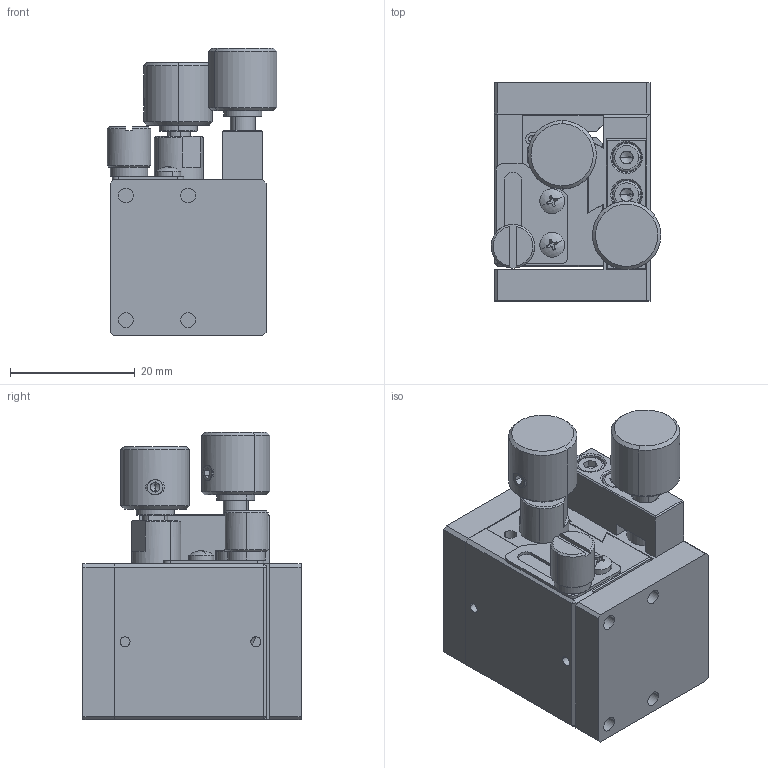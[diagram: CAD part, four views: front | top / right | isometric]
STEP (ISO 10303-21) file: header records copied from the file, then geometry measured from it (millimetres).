
FILE_DESCRIPTION (( 'STEP AP203' ), '1' );
FILE_NAME ('BWEE25.STEP', '2024-02-26T12:22:28', ( 'China' ), ( 'Microsoft' ), 'SwSTEP 2.0', 'SolidWorks 2024', '' );
FILE_SCHEMA (( 'CONFIG_CONTROL_DESIGN' ));
Products named in the file (1): BWEE25
Bounding box: 27.24 x 35 x 46.12 mm (x, y, z)
Volume: 23299.8 mm3; surface area: 18286.9 mm2
Topology: 22 solids, 22 shells, 742 faces, 1888 edges, 1193 vertices
Faces by surface type: plane 347, cylinder 237, cone 106, bspline 40, torus 8, sphere 4
Entity records: 111841 total; most frequent: CARTESIAN_POINT 94162, ORIENTED_EDGE 3704, DIRECTION 3622, EDGE_CURVE 1852, AXIS2_PLACEMENT_3D 1301, VERTEX_POINT 1193, LINE 1020, VECTOR 1020
